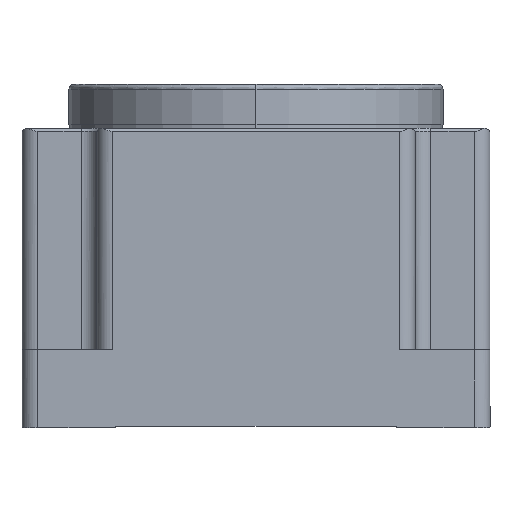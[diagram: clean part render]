
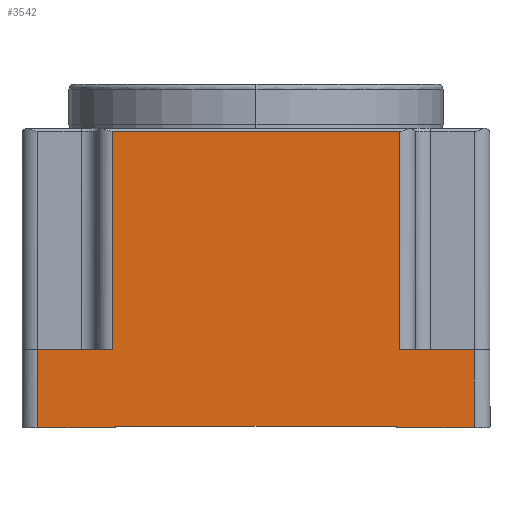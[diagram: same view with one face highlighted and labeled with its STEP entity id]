
A CAD part, left-side view. The second image highlights one B-rep face of the part: STEP entity #3542.
In plain terms, the highlighted planar face has unit normal (1, 0, 0).
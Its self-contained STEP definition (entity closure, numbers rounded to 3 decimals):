
#1439 = LINE ( 'NONE', #15123, #7634 ) ;
#1688 = LINE ( 'NONE', #27115, #8956 ) ;
#2013 = DIRECTION ( 'NONE',  ( 0., -1., 0. ) ) ;
#2187 = LINE ( 'NONE', #15568, #23964 ) ;
#2781 = EDGE_CURVE ( 'NONE', #6556, #20603, #8695, .T. ) ;
#3331 = VECTOR ( 'NONE', #11088, 1000. ) ;
#3531 = CARTESIAN_POINT ( 'NONE',  ( -75., 45., 0.5 ) ) ;
#3542 = ADVANCED_FACE ( 'NONE', ( #14211 ), #5071, .T. ) ;
#3807 = DIRECTION ( 'NONE',  ( 0., 1., 0. ) ) ;
#3981 = DIRECTION ( 'NONE',  ( 0., -1., 0. ) ) ;
#4260 = ORIENTED_EDGE ( 'NONE', *, *, #28136, .T. ) ;
#4323 = EDGE_CURVE ( 'NONE', #21580, #23721, #20213, .T. ) ;
#4423 = CARTESIAN_POINT ( 'NONE',  ( -75., -75., 0. ) ) ;
#4484 = ORIENTED_EDGE ( 'NONE', *, *, #11912, .T. ) ;
#5071 = PLANE ( 'NONE',  #14964 ) ;
#5732 = CARTESIAN_POINT ( 'NONE',  ( -75., 70., 25. ) ) ;
#6364 = CARTESIAN_POINT ( 'NONE',  ( -75., -45., 0.5 ) ) ;
#6556 = VERTEX_POINT ( 'NONE', #19110 ) ;
#6810 = LINE ( 'NONE', #25386, #7354 ) ;
#7354 = VECTOR ( 'NONE', #13813, 1000. ) ;
#7634 = VECTOR ( 'NONE', #15434, 1000. ) ;
#8493 = CARTESIAN_POINT ( 'NONE',  ( -75., 0., 25. ) ) ;
#8595 = EDGE_LOOP ( 'NONE', ( #10085, #14877, #19277, #11530, #16376, #4484, #4260, #12298, #21089, #28224, #21243, #18907 ) ) ;
#8695 = LINE ( 'NONE', #11685, #15889 ) ;
#8723 = EDGE_CURVE ( 'NONE', #20603, #15828, #23261, .T. ) ;
#8956 = VECTOR ( 'NONE', #3807, 1000. ) ;
#9566 = CARTESIAN_POINT ( 'NONE',  ( -75., -70., 0. ) ) ;
#9783 = DIRECTION ( 'NONE',  ( 1., 0., 0. ) ) ;
#10010 = EDGE_CURVE ( 'NONE', #20680, #17632, #18432, .T. ) ;
#10085 = ORIENTED_EDGE ( 'NONE', *, *, #4323, .T. ) ;
#10087 = VERTEX_POINT ( 'NONE', #5732 ) ;
#10185 = VERTEX_POINT ( 'NONE', #15772 ) ;
#11012 = DIRECTION ( 'NONE',  ( 0., -1., 0. ) ) ;
#11088 = DIRECTION ( 'NONE',  ( 0., 0., -1. ) ) ;
#11530 = ORIENTED_EDGE ( 'NONE', *, *, #10010, .F. ) ;
#11545 = VECTOR ( 'NONE', #17933, 1000. ) ;
#11685 = CARTESIAN_POINT ( 'NONE',  ( -75., -75., 25. ) ) ;
#11912 = EDGE_CURVE ( 'NONE', #10087, #15207, #22352, .T. ) ;
#12298 = ORIENTED_EDGE ( 'NONE', *, *, #13933, .T. ) ;
#12622 = CARTESIAN_POINT ( 'NONE',  ( -75., 45., 0.5 ) ) ;
#13813 = DIRECTION ( 'NONE',  ( 0., 0., -1. ) ) ;
#13933 = EDGE_CURVE ( 'NONE', #18726, #10185, #2187, .T. ) ;
#14177 = EDGE_CURVE ( 'NONE', #15828, #21580, #25290, .T. ) ;
#14211 = FACE_OUTER_BOUND ( 'NONE', #8595, .T. ) ;
#14877 = ORIENTED_EDGE ( 'NONE', *, *, #16791, .T. ) ;
#14898 = DIRECTION ( 'NONE',  ( 0., -1., 0. ) ) ;
#14964 = AXIS2_PLACEMENT_3D ( 'NONE', #20911, #9783, #23509 ) ;
#15123 = CARTESIAN_POINT ( 'NONE',  ( -75., 46., 96. ) ) ;
#15207 = VERTEX_POINT ( 'NONE', #20141 ) ;
#15374 = VERTEX_POINT ( 'NONE', #3531 ) ;
#15434 = DIRECTION ( 'NONE',  ( 0., 0., 1. ) ) ;
#15568 = CARTESIAN_POINT ( 'NONE',  ( -75., -75., 95. ) ) ;
#15622 = VECTOR ( 'NONE', #14898, 1000. ) ;
#15681 = EDGE_CURVE ( 'NONE', #17632, #15374, #26054, .T. ) ;
#15772 = CARTESIAN_POINT ( 'NONE',  ( -75., -46., 95. ) ) ;
#15828 = VERTEX_POINT ( 'NONE', #9566 ) ;
#15889 = VECTOR ( 'NONE', #3981, 1000. ) ;
#16376 = ORIENTED_EDGE ( 'NONE', *, *, #29935, .T. ) ;
#16791 = EDGE_CURVE ( 'NONE', #23721, #15374, #1688, .T. ) ;
#16988 = CARTESIAN_POINT ( 'NONE',  ( -75., 70., 0. ) ) ;
#17632 = VERTEX_POINT ( 'NONE', #27119 ) ;
#17663 = VECTOR ( 'NONE', #26645, 1000. ) ;
#17929 = DIRECTION ( 'NONE',  ( 0., 0., 1. ) ) ;
#17933 = DIRECTION ( 'NONE',  ( 0., 0., 1. ) ) ;
#18128 = CARTESIAN_POINT ( 'NONE',  ( -75., 0., 0. ) ) ;
#18432 = LINE ( 'NONE', #18128, #20389 ) ;
#18726 = VERTEX_POINT ( 'NONE', #23030 ) ;
#18907 = ORIENTED_EDGE ( 'NONE', *, *, #14177, .T. ) ;
#19110 = CARTESIAN_POINT ( 'NONE',  ( -75., -46., 25. ) ) ;
#19277 = ORIENTED_EDGE ( 'NONE', *, *, #15681, .F. ) ;
#19596 = VECTOR ( 'NONE', #22993, 1000. ) ;
#20052 = CARTESIAN_POINT ( 'NONE',  ( -75., 70., 96. ) ) ;
#20141 = CARTESIAN_POINT ( 'NONE',  ( -75., 46., 25. ) ) ;
#20213 = LINE ( 'NONE', #29543, #11545 ) ;
#20389 = VECTOR ( 'NONE', #2013, 1000. ) ;
#20603 = VERTEX_POINT ( 'NONE', #26020 ) ;
#20680 = VERTEX_POINT ( 'NONE', #16988 ) ;
#20822 = EDGE_CURVE ( 'NONE', #10185, #6556, #6810, .T. ) ;
#20911 = CARTESIAN_POINT ( 'NONE',  ( -75., -75., 96. ) ) ;
#21089 = ORIENTED_EDGE ( 'NONE', *, *, #20822, .T. ) ;
#21243 = ORIENTED_EDGE ( 'NONE', *, *, #8723, .T. ) ;
#21580 = VERTEX_POINT ( 'NONE', #24865 ) ;
#22352 = LINE ( 'NONE', #8493, #15622 ) ;
#22993 = DIRECTION ( 'NONE',  ( 0., 1., 0. ) ) ;
#23030 = CARTESIAN_POINT ( 'NONE',  ( -75., 46., 95. ) ) ;
#23261 = LINE ( 'NONE', #25551, #3331 ) ;
#23509 = DIRECTION ( 'NONE',  ( 0., 0., -1. ) ) ;
#23721 = VERTEX_POINT ( 'NONE', #6364 ) ;
#23964 = VECTOR ( 'NONE', #11012, 1000. ) ;
#24723 = VECTOR ( 'NONE', #17929, 1000. ) ;
#24807 = LINE ( 'NONE', #20052, #24723 ) ;
#24865 = CARTESIAN_POINT ( 'NONE',  ( -75., -45., 0. ) ) ;
#25290 = LINE ( 'NONE', #4423, #19596 ) ;
#25386 = CARTESIAN_POINT ( 'NONE',  ( -75., -46., 96. ) ) ;
#25551 = CARTESIAN_POINT ( 'NONE',  ( -75., -70., 96. ) ) ;
#26020 = CARTESIAN_POINT ( 'NONE',  ( -75., -70., 25. ) ) ;
#26054 = LINE ( 'NONE', #12622, #17663 ) ;
#26645 = DIRECTION ( 'NONE',  ( 0., 0., 1. ) ) ;
#27115 = CARTESIAN_POINT ( 'NONE',  ( -75., 0., 0.5 ) ) ;
#27119 = CARTESIAN_POINT ( 'NONE',  ( -75., 45., 0. ) ) ;
#28136 = EDGE_CURVE ( 'NONE', #15207, #18726, #1439, .T. ) ;
#28224 = ORIENTED_EDGE ( 'NONE', *, *, #2781, .T. ) ;
#29543 = CARTESIAN_POINT ( 'NONE',  ( -75., -45., 96. ) ) ;
#29935 = EDGE_CURVE ( 'NONE', #20680, #10087, #24807, .T. ) ;
